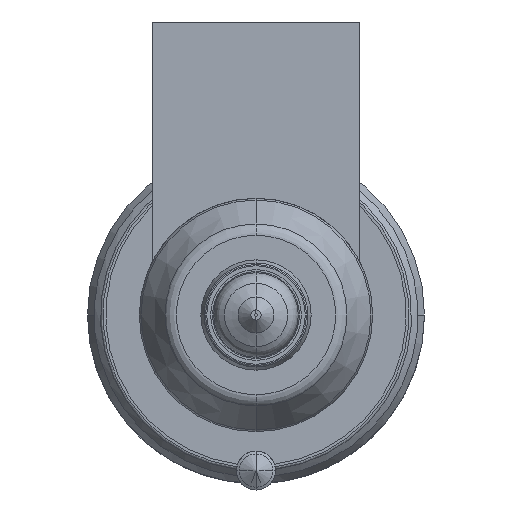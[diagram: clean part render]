
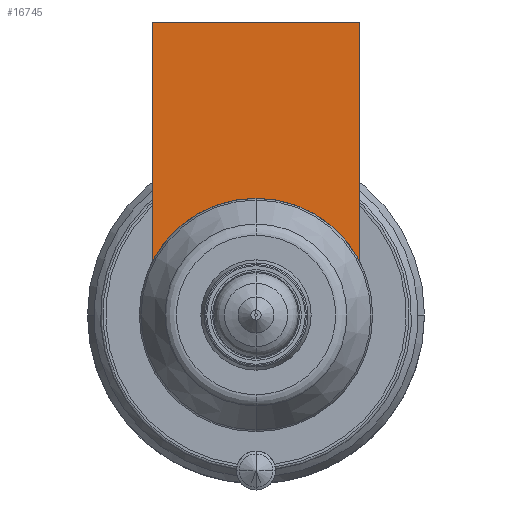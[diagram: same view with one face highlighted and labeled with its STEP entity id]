
A CAD part, front view. The second image highlights one B-rep face of the part: STEP entity #16745.
In plain terms, the highlighted planar face has unit normal (0, -1, 0).
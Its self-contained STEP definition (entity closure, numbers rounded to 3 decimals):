
#15265=DIRECTION('',(0.,0.,-1.));
#15266=VECTOR('',#15265,18.481);
#15267=CARTESIAN_POINT('',(-8.,-54.,22.604));
#15268=LINE('',#15267,#15266);
#15893=CARTESIAN_POINT('',(0.,-54.,0.));
#15894=DIRECTION('',(0.,-1.,0.));
#15895=DIRECTION('',(0.,0.,1.));
#15896=AXIS2_PLACEMENT_3D('',#15893,#15894,#15895);
#15901=DIRECTION('',(1.,0.,0.));
#15902=VECTOR('',#15901,16.);
#15903=CARTESIAN_POINT('',(-8.,-54.,22.604));
#15904=LINE('',#15903,#15902);
#15908=CARTESIAN_POINT('',(0.,-54.,0.));
#15909=DIRECTION('',(0.,-1.,0.));
#15910=DIRECTION('',(0.889,0.,0.458));
#15911=AXIS2_PLACEMENT_3D('',#15908,#15909,#15910);
#15994=DIRECTION('',(0.,0.,-1.));
#15995=VECTOR('',#15994,18.481);
#15996=CARTESIAN_POINT('',(8.,-54.,22.604));
#15997=LINE('',#15996,#15995);
#16103=CARTESIAN_POINT('',(-8.,-54.,22.604));
#16104=VERTEX_POINT('',#16103);
#16109=CARTESIAN_POINT('',(8.,-54.,22.604));
#16110=VERTEX_POINT('',#16109);
#16112=CARTESIAN_POINT('',(-8.,-54.,4.123));
#16114=VERTEX_POINT('',#16112);
#16116=CARTESIAN_POINT('',(8.,-54.,4.123));
#16118=VERTEX_POINT('',#16116);
#16119=CARTESIAN_POINT('',(0.,-54.,9.));
#16120=VERTEX_POINT('',#16119);
#16731=CARTESIAN_POINT('',(-8.,-54.,22.604));
#16732=DIRECTION('',(0.,-1.,0.));
#16733=DIRECTION('',(0.,0.,-1.));
#16734=AXIS2_PLACEMENT_3D('',#16731,#16732,#16733);
#16735=PLANE('',#16734);
#16736=ORIENTED_EDGE('',*,*,#16160,.T.);
#16737=ORIENTED_EDGE('',*,*,#16143,.F.);
#16739=ORIENTED_EDGE('',*,*,#16738,.T.);
#16741=ORIENTED_EDGE('',*,*,#16740,.T.);
#16742=ORIENTED_EDGE('',*,*,#16208,.T.);
#16743=EDGE_LOOP('',(#16736,#16737,#16739,#16741,#16742));
#16744=FACE_OUTER_BOUND('',#16743,.F.);
#16745=ADVANCED_FACE('',(#16744),#16735,.T.);
#15897=CIRCLE('',#15896,9.);
#15912=CIRCLE('',#15911,9.);
#16143=EDGE_CURVE('',#16104,#16114,#15268,.T.);
#16160=EDGE_CURVE('',#16120,#16114,#15897,.T.);
#16208=EDGE_CURVE('',#16118,#16120,#15912,.T.);
#16738=EDGE_CURVE('',#16104,#16110,#15904,.T.);
#16740=EDGE_CURVE('',#16110,#16118,#15997,.T.);
